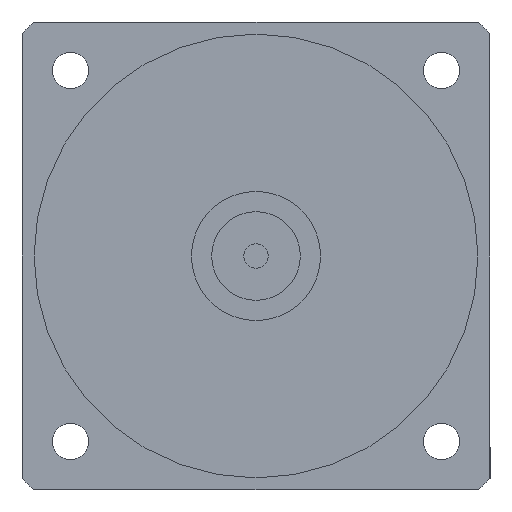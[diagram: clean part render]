
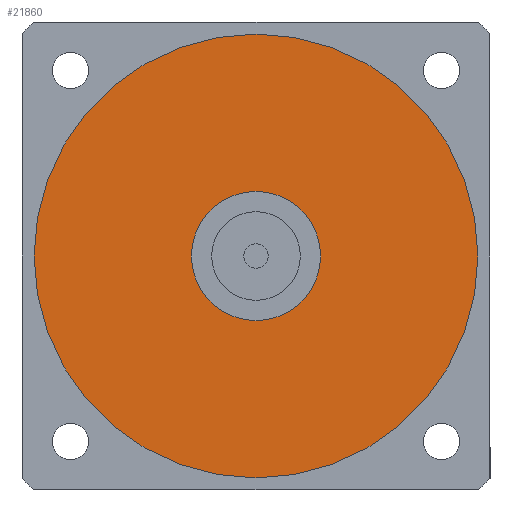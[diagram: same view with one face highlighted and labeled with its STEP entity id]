
A CAD part, left-side view. The second image highlights one B-rep face of the part: STEP entity #21860.
In plain terms, the highlighted planar face has unit normal (-1, 0, 0) as drawn and (0, 0, -1) by its records, which use the part's own axes.
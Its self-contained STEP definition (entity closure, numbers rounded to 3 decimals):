
#21280=CARTESIAN_POINT('',(-55.,0.,-55.5));
#21290=VERTEX_POINT('',#21280);
#21380=CARTESIAN_POINT('',(55.,0.,-55.5));
#21390=VERTEX_POINT('',#21380);
#21420=CARTESIAN_POINT('',(0.,0.,
-55.5));
#21430=DIRECTION('',(0.,0.,1.));
#21440=DIRECTION('',(0.,-1.,0.));
#21450=AXIS2_PLACEMENT_3D('',#21420,#21430,#21440);
#21460=CIRCLE('',#21450,55.);
#21470=CARTESIAN_POINT('',(0.,-55.,-55.5));
#21480=VERTEX_POINT('',#21470);
#21490=EDGE_CURVE('',#21480,#21390,#21460,.T.);
#21510=EDGE_CURVE('',#21290,#21480,#21460,.T.);
#21560=CARTESIAN_POINT('',(0.,0.,
-55.5));
#21570=DIRECTION('',(0.,0.,1.));
#21580=DIRECTION('',(-1.,0.,0.));
#21590=AXIS2_PLACEMENT_3D('',#21560,#21570,#21580);
#21600=PLANE('',#21590);
#21610=ORIENTED_EDGE('',*,*,#21490,.F.);
#21620=EDGE_CURVE('',#21390,#21290,#21460,.T.);
#21630=ORIENTED_EDGE('',*,*,#21620,.F.);
#21640=ORIENTED_EDGE('',*,*,#21510,.F.);
#21650=EDGE_LOOP('',(#21640,#21630,#21610));
#21660=FACE_OUTER_BOUND('',#21650,.T.);
#21670=CARTESIAN_POINT('',(0.,0.,
-55.5));
#21680=DIRECTION('',(0.,0.,1.));
#21690=DIRECTION('',(0.,-1.,0.));
#21700=AXIS2_PLACEMENT_3D('',#21670,#21680,#21690);
#21710=CIRCLE('',#21700,16.);
#21720=CARTESIAN_POINT('',(16.,0.,-55.5));
#21730=VERTEX_POINT('',#21720);
#21740=CARTESIAN_POINT('',(-16.,0.,-55.5));
#21750=VERTEX_POINT('',#21740);
#21760=EDGE_CURVE('',#21730,#21750,#21710,.T.);
#21770=ORIENTED_EDGE('',*,*,#21760,.T.);
#21780=CARTESIAN_POINT('',(0.,-16.,-55.5));
#21790=VERTEX_POINT('',#21780);
#21800=EDGE_CURVE('',#21790,#21730,#21710,.T.);
#21810=ORIENTED_EDGE('',*,*,#21800,.T.);
#21820=EDGE_CURVE('',#21750,#21790,#21710,.T.);
#21830=ORIENTED_EDGE('',*,*,#21820,.T.);
#21840=EDGE_LOOP('',(#21830,#21810,#21770));
#21850=FACE_BOUND('',#21840,.T.);
#21860=ADVANCED_FACE('',(#21660,#21850),#21600,.F.);
